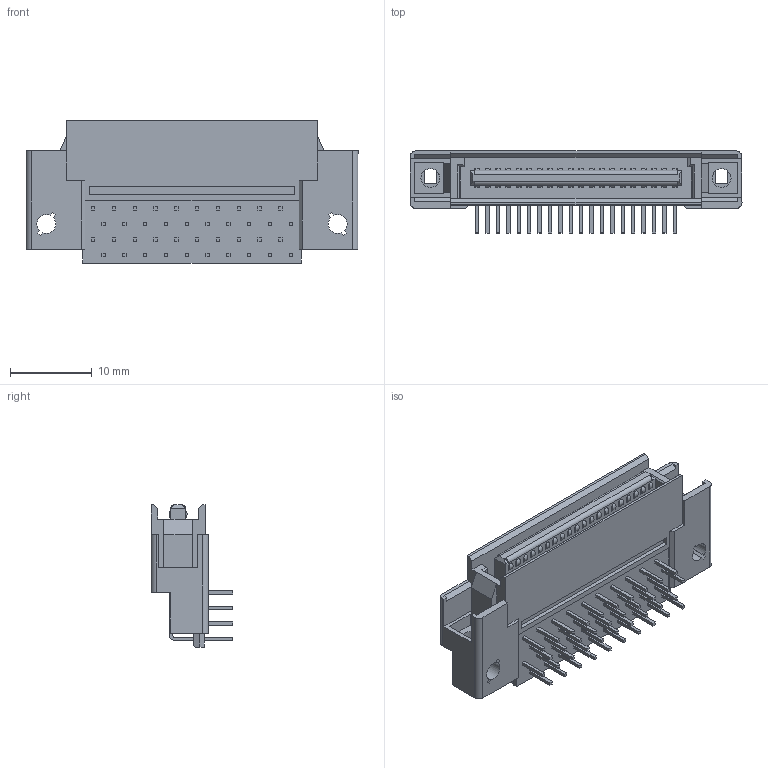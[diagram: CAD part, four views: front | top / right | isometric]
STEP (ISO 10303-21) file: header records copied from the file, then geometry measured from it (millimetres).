
FILE_DESCRIPTION(('Creo Elements/Direct Modeling STEP Export'),'2;1');
FILE_NAME('P3D810_8830E-040-170L-F.stp','2023-03-29T15:34:12',(''),(''),'Creo Elements/Direct Modeling STEP processor for AP214 (Solid Model)','Creo Elements/Direct Modeling 20.4A 18-Oct-2021 (C) Parametric Technology GmbH','');
FILE_SCHEMA(('AUTOMOTIVE_DESIGN { 1 0 10303 214 1 1 1 1 }'));
Length unit declared in the file: millimetre
Products named in the file (2): 8830E-040-170L-F
Assembly tree (1 placements, depth 2):
  8830E-040-170L-F
    8830E-040-170L-F
Bounding box: 40.53 x 10 x 17.4 mm (x, y, z)
Volume: 2017.7 mm3; surface area: 3962.2 mm2
Topology: 1 solids, 1 shells, 1494 faces, 3967 edges, 2636 vertices
Faces by surface type: plane 1360, cylinder 134
Entity records: 44605 total; most frequent: ORIENTED_EDGE 7934, CARTESIAN_POINT 7818, DIRECTION 6863, EDGE_CURVE 3967, VECTOR 3501, LINE 3501, VERTEX_POINT 2636, EDGE_LOOP 1743
